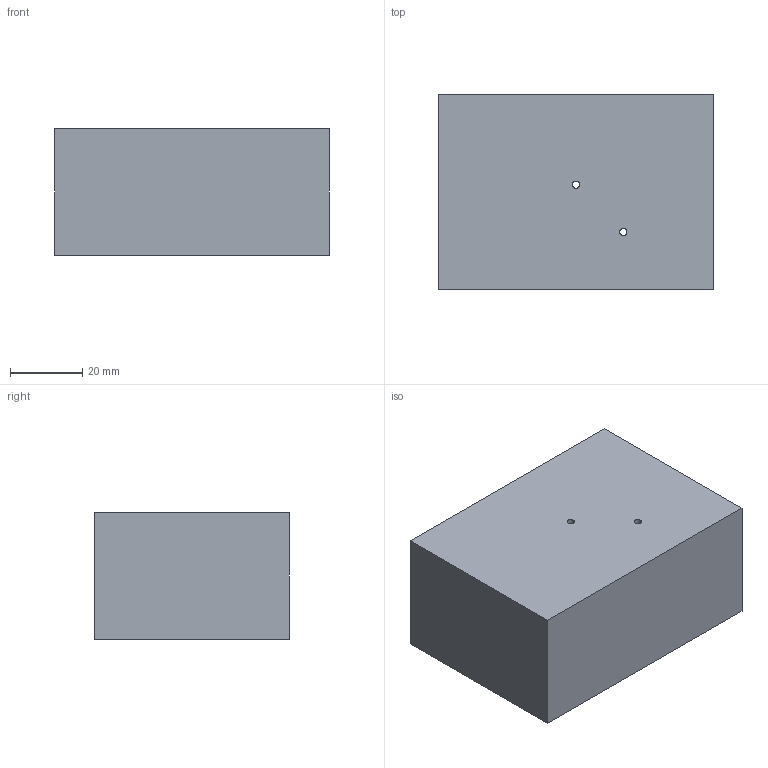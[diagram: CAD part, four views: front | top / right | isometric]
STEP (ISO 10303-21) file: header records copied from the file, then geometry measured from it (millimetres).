
FILE_DESCRIPTION (( 'STEP AP203' ), '1' );
FILE_NAME ('FT100ES06.STEP', '2026-06-26T01:17:29', ( 'USER' ), ( '' ), 'SwSTEP 2.0', 'SolidWorks 2023', '' );
FILE_SCHEMA (( 'CONFIG_CONTROL_DESIGN' ));
Length unit declared in the file: millimetre
Products named in the file (1): FT100ES06
Bounding box: 76.2 x 54 x 35 mm (x, y, z)
Volume: 133006.5 mm3; surface area: 20390.4 mm2
Topology: 1 solids, 1 shells, 40 faces, 95 edges, 55 vertices
Faces by surface type: cylinder 22, plane 10, cone 8
Entity records: 1338 total; most frequent: CARTESIAN_POINT 344, DIRECTION 192, ORIENTED_EDGE 190, EDGE_CURVE 95, AXIS2_PLACEMENT_3D 75, VERTEX_POINT 55, EDGE_LOOP 48, LINE 42
